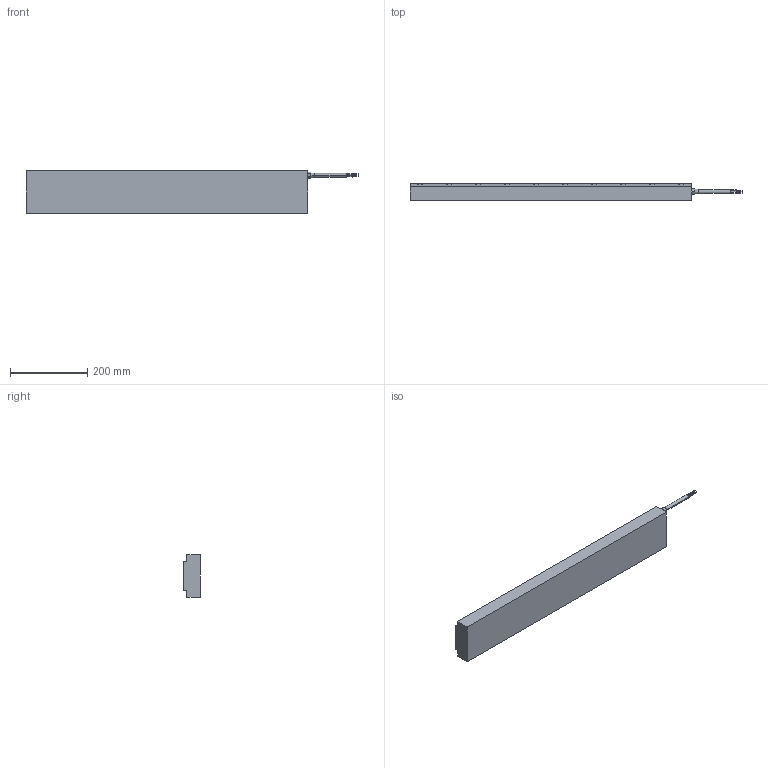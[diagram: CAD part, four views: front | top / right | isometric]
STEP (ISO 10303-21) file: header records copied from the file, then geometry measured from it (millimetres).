
FILE_DESCRIPTION((''),'2;1');
FILE_NAME('IC44_75','2010-03-09T',('brad.winesett'),('Kollmorgen'),'PRO/ENGINEER BY PARAMETRIC TECHNOLOGY CORPORATION, 2006510','PRO/ENGINEER BY PARAMETRIC TECHNOLOGY CORPORATION, 2006510','');
FILE_SCHEMA(('CONFIG_CONTROL_DESIGN'));
Length unit declared in the file: millimetre
Products named in the file (1): IC44_75
Bounding box: 858.2 x 43.3 x 110 mm (x, y, z)
Volume: 3259387.8 mm3; surface area: 274945.8 mm2
Topology: 1 solids, 31 shells, 478 faces, 1206 edges, 774 vertices
Faces by surface type: plane 250, cylinder 168, cone 60
Entity records: 13963 total; most frequent: DIRECTION 2500, CARTESIAN_POINT 2399, ORIENTED_EDGE 2172, EDGE_CURVE 1146, AXIS2_PLACEMENT_3D 875, VERTEX_POINT 774, VECTOR 750, LINE 750
